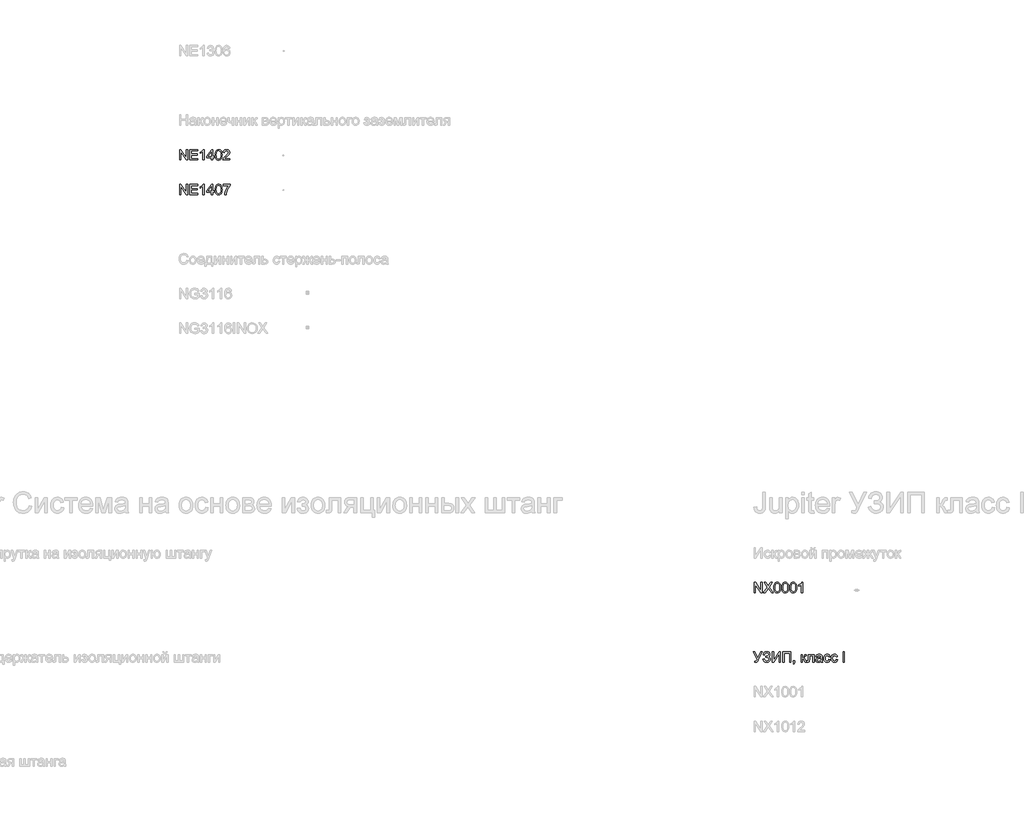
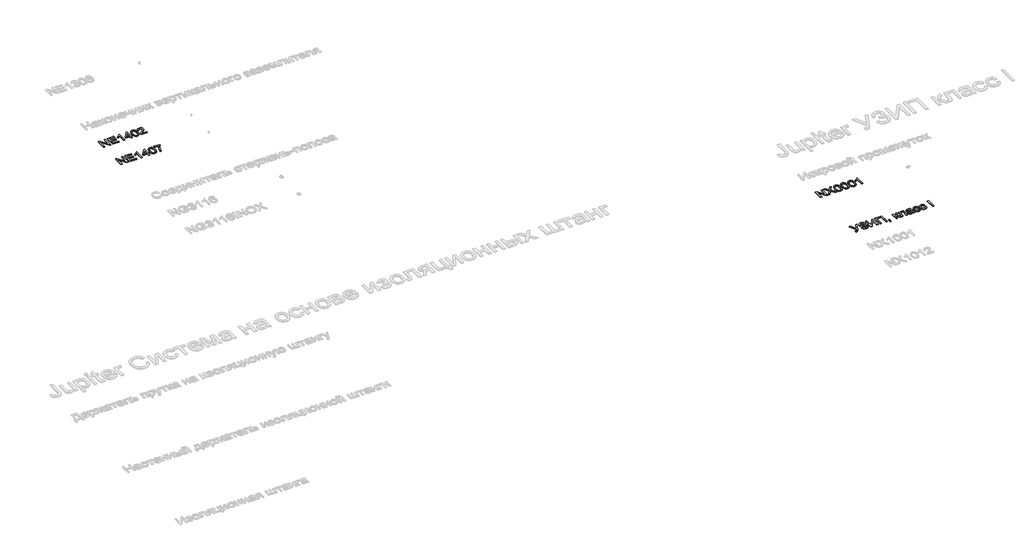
# One storey, part 45 of 124: 4 proxies.
"""IFC4 building model written with IfcOpenShell, lengths in millimetres."""

from ifc_helpers import new_model, si_unit, origin, origin_with_axes, place, context, project, spatial, polyline, outline, extrude, element, save

model = new_model("IFC4")

# Units and contexts
model_context = context("Model", 3, world=origin())
ifc_project = project(units=[si_unit("LENGTHUNIT", "METRE", prefix="MILLI")], contexts=[model_context])

# Site, building, storey
site = spatial("IfcSite", under=ifc_project)
building = spatial("IfcBuilding", under=site)
storey = spatial("IfcBuildingStorey", under=building, Name="Этаж 01", Elevation=0.0)

# Proxies
placement = place(None, origin())
element("IfcBuildingElementProxy", 1, Name="300", ObjectType="300", at=placement, inside=storey, context=model_context, shape_type="SweptSolid", body=[
    extrude(outline(polyline([(32939.8675381, -81074.498362), (32939.8675381, -80773.1294316), (32980.1874048, -80773.1294316), (33137.6408988, -81011.8848464), (33137.6408988, -80773.1294316), (33175.3120151, -80773.1294316), (33175.3120151, -81074.498362), (33134.9921484, -81074.498362), (32977.5386545, -80835.6693707), (32977.5386545, -81074.498362), (32939.8675381, -81074.498362)])), origin_with_axes(), (0.0, 0.0, 1.0), 20.0),
    extrude(outline(polyline([(33241.2364686, -81074.498362), (33241.2364686, -80773.1294316), (33457.8453874, -80773.1294316), (33457.8453874, -80810.8005479), (33278.9075849, -80810.8005479), (33278.9075849, -80900.2694491), (33448.4276083, -80900.2694491), (33448.4276083, -80937.9405654), (33278.9075849, -80937.9405654), (33278.9075849, -81036.8272457), (33462.5542769, -81036.8272457), (33462.5542769, -81074.498362), (33241.2364686, -81074.498362)])), origin_with_axes(), (0.0, 0.0, 1.0), 20.0),
    extrude(outline(polyline([(33646.2009689, -81074.498362), (33608.5298526, -81074.498362), (33608.5298526, -80839.6424963), (33572.8452991, -80865.0631421), (33533.18762, -80884.0826413), (33533.18762, -80848.4716642), (33562.7745294, -80832.3768269), (33588.4067074, -80813.228569), (33608.612626, -80792.8663006), (33621.9207572, -80773.1294316), (33646.2009689, -80773.1294316), (33646.2009689, -81074.498362)])), origin_with_axes(), (0.0, 0.0, 1.0), 20.0),
    extrude(outline(polyline([(33858.1009981, -81074.498362), (33858.1009981, -81003.8650189), (33721.5432015, -81003.8650189), (33721.5432015, -80966.1939026), (33867.5187772, -80777.8383211), (33895.7721144, -80777.8383211), (33895.7721144, -80966.1939026), (33933.4432307, -80966.1939026), (33933.4432307, -81003.8650189), (33895.7721144, -81003.8650189), (33895.7721144, -81074.498362), (33858.1009981, -81074.498362)]), holes=[polyline([(33858.1009981, -80966.1939026), (33858.1009981, -80849.7960393), (33767.8963329, -80966.1939026), (33858.1009981, -80966.1939026)])]), origin_with_axes(), (0.0, 0.0, 1.0), 20.0),
    extrude(outline(polyline([(33966.4054575, -80926.2419179), (33969.1737695, -80878.0033913), (33977.4787055, -80839.5321317), (33991.2374922, -80810.2395278), (34010.3673559, -80789.5369685), (34035.0062525, -80777.2313158), (34065.2921378, -80773.1294316), (34088.5054917, -80775.5574527), (34109.2908244, -80782.8415162), (34126.6732487, -80794.6965135), (34139.6778772, -80810.8373361), (34149.5003265, -80831.1260281), (34157.336213, -80855.4246339), (34162.4681668, -80886.2807362), (34164.1788181, -80926.2419179), (34161.4380972, -80974.2045331), (34153.2159346, -81012.5838222), (34139.5399215, -81041.9040172), (34120.4376489, -81062.68935), (34095.7435699, -81075.0777761), (34065.2921378, -81079.2072515), (34044.5435933, -81077.4138268), (34026.1494935, -81072.0335526), (34010.1098385, -81063.066429), (33996.4246283, -81050.5124559), (33983.2912411, -81027.8187353), (33973.9102502, -80999.5424055), (33968.2816557, -80965.6834664), (33966.4054575, -80926.2419179)]), holes=[polyline([(34004.0765738, -80926.1683415), (34008.4911577, -80985.4249339), (34014.0093877, -81005.6929326), (34021.7349096, -81019.7207329), (34041.4533845, -81036.0822847), (34065.2921378, -81041.5361352), (34089.1308911, -81036.0638906), (34108.849366, -81019.6471565), (34116.5748879, -81005.5963636), (34122.0931178, -80985.3329634), (34126.5077018, -80926.1683415), (34122.2402706, -80868.2453214), (34116.9059817, -80848.0440013), (34109.4379772, -80833.682808), (34089.7562905, -80816.5211129), (34064.8506794, -80810.8005479), (34041.2694435, -80815.8405312), (34022.3235208, -80830.9604812), (34014.3404815, -80846.595466), (34008.6383105, -80867.6751043), (34004.0765738, -80926.1683415)])]), origin_with_axes(), (0.0, 0.0, 1.0), 20.0),
    extrude(outline(polyline([(34390.2055159, -81036.8272457), (34390.2055159, -81074.498362), (34192.4321553, -81074.498362), (34196.4788573, -81048.5258931), (34205.7678777, -81028.2280041), (34219.3611174, -81008.5371203), (34239.02441, -80987.9265315), (34266.5235892, -80964.8695274), (34307.1745496, -80928.7619096), (34331.5651259, -80902.1088591), (34343.760414, -80880.4773977), (34347.8255101, -80859.4345476), (34343.9903403, -80840.5713983), (34332.4848309, -80824.8904283), (34314.798904, -80814.323018), (34292.4224816, -80810.8005479), (34268.9240192, -80814.2402445), (34250.6678752, -80824.5593345), (34238.8864543, -80840.9484774), (34234.8121612, -80862.5983328), (34197.1410449, -80857.8894432), (34206.2737154, -80821.4507316), (34214.820074, -80806.9147943), (34226.0197815, -80794.8344693), (34239.6153205, -80785.3385153), (34255.3491736, -80778.555691), (34293.231822, -80773.1294316), (34313.4216458, -80774.6377477), (34331.390382, -80779.1626963), (34347.1380306, -80786.7042772), (34360.6645917, -80797.2624904), (34371.5286069, -80810.0555868), (34379.2886177, -80824.3018171), (34383.9446242, -80840.0011812), (34385.4966264, -80857.1536793), (34383.8227633, -80875.1707), (34378.8011741, -80892.875021), (34369.8892328, -80910.8828446), (34356.5443134, -80929.8103733), (34335.271537, -80952.4075249), (34302.5760247, -80981.4242172), (34259.2395257, -81017.6605937), (34242.2433775, -81036.8272457), (34390.2055159, -81036.8272457)])), origin_with_axes(), (0.0, 0.0, 1.0), 20.0),
])
element("IfcBuildingElementProxy", 2, Name="300", ObjectType="300", at=placement, inside=storey, context=model_context, shape_type="SweptSolid", body=[
    extrude(outline(polyline([(32939.8675381, -82074.498362), (32939.8675381, -81773.1294316), (32980.1874048, -81773.1294316), (33137.6408988, -82011.8848464), (33137.6408988, -81773.1294316), (33175.3120151, -81773.1294316), (33175.3120151, -82074.498362), (33134.9921484, -82074.498362), (32977.5386545, -81835.6693707), (32977.5386545, -82074.498362), (32939.8675381, -82074.498362)])), origin_with_axes(), (0.0, 0.0, 1.0), 20.0),
    extrude(outline(polyline([(33241.2364686, -82074.498362), (33241.2364686, -81773.1294316), (33457.8453874, -81773.1294316), (33457.8453874, -81810.8005479), (33278.9075849, -81810.8005479), (33278.9075849, -81900.2694491), (33448.4276083, -81900.2694491), (33448.4276083, -81937.9405654), (33278.9075849, -81937.9405654), (33278.9075849, -82036.8272457), (33462.5542769, -82036.8272457), (33462.5542769, -82074.498362), (33241.2364686, -82074.498362)])), origin_with_axes(), (0.0, 0.0, 1.0), 20.0),
    extrude(outline(polyline([(33646.2009689, -82074.498362), (33608.5298526, -82074.498362), (33608.5298526, -81839.6424963), (33572.8452991, -81865.0631421), (33533.18762, -81884.0826413), (33533.18762, -81848.4716642), (33562.7745294, -81832.3768269), (33588.4067074, -81813.228569), (33608.612626, -81792.8663006), (33621.9207572, -81773.1294316), (33646.2009689, -81773.1294316), (33646.2009689, -82074.498362)])), origin_with_axes(), (0.0, 0.0, 1.0), 20.0),
    extrude(outline(polyline([(33858.1009981, -82074.498362), (33858.1009981, -82003.8650189), (33721.5432015, -82003.8650189), (33721.5432015, -81966.1939026), (33867.5187772, -81777.8383211), (33895.7721144, -81777.8383211), (33895.7721144, -81966.1939026), (33933.4432307, -81966.1939026), (33933.4432307, -82003.8650189), (33895.7721144, -82003.8650189), (33895.7721144, -82074.498362), (33858.1009981, -82074.498362)]), holes=[polyline([(33858.1009981, -81966.1939026), (33858.1009981, -81849.7960393), (33767.8963329, -81966.1939026), (33858.1009981, -81966.1939026)])]), origin_with_axes(), (0.0, 0.0, 1.0), 20.0),
    extrude(outline(polyline([(33966.4054575, -81926.2419179), (33969.1737695, -81878.0033913), (33977.4787055, -81839.5321317), (33991.2374922, -81810.2395278), (34010.3673559, -81789.5369685), (34035.0062525, -81777.2313158), (34065.2921378, -81773.1294316), (34088.5054917, -81775.5574527), (34109.2908244, -81782.8415162), (34126.6732487, -81794.6965135), (34139.6778772, -81810.8373361), (34149.5003265, -81831.1260281), (34157.336213, -81855.4246339), (34162.4681668, -81886.2807362), (34164.1788181, -81926.2419179), (34161.4380972, -81974.2045331), (34153.2159346, -82012.5838222), (34139.5399215, -82041.9040172), (34120.4376489, -82062.68935), (34095.7435699, -82075.0777761), (34065.2921378, -82079.2072515), (34044.5435933, -82077.4138268), (34026.1494935, -82072.0335526), (34010.1098385, -82063.066429), (33996.4246283, -82050.5124559), (33983.2912411, -82027.8187353), (33973.9102502, -81999.5424055), (33968.2816557, -81965.6834664), (33966.4054575, -81926.2419179)]), holes=[polyline([(34004.0765738, -81926.1683415), (34008.4911577, -81985.4249339), (34014.0093877, -82005.6929326), (34021.7349096, -82019.7207329), (34041.4533845, -82036.0822847), (34065.2921378, -82041.5361352), (34089.1308911, -82036.0638906), (34108.849366, -82019.6471565), (34116.5748879, -82005.5963636), (34122.0931178, -81985.3329634), (34126.5077018, -81926.1683415), (34122.2402706, -81868.2453214), (34116.9059817, -81848.0440013), (34109.4379772, -81833.682808), (34089.7562905, -81816.5211129), (34064.8506794, -81810.8005479), (34041.2694435, -81815.8405312), (34022.3235208, -81830.9604812), (34014.3404815, -81846.595466), (34008.6383105, -81867.6751043), (34004.0765738, -81926.1683415)])]), origin_with_axes(), (0.0, 0.0, 1.0), 20.0),
    extrude(outline(polyline([(34197.1410449, -81815.5094374), (34197.1410449, -81777.8383211), (34394.9144055, -81777.8383211), (34394.9144055, -81808.2989503), (34366.7254476, -81843.9743068), (34338.8124012, -81889.3433538), (34314.1918987, -81940.267419), (34295.8805724, -81992.6078299), (34286.9042517, -82031.7688683), (34281.9010566, -82074.498362), (34244.2299402, -82074.498362), (34248.3042333, -82035.6684174), (34259.2027375, -81989.5176211), (34276.631147, -81940.5985128), (34300.2951563, -81893.4636322), (34327.9230942, -81850.8537001), (34357.2432892, -81815.5094374), (34197.1410449, -81815.5094374)])), origin_with_axes(), (0.0, 0.0, 1.0), 20.0),
])
element("IfcBuildingElementProxy", 3, Name="300", ObjectType="300", at=placement, inside=storey, context=model_context, shape_type="SweptSolid", body=[
    extrude(outline(polyline([(49499.8220677, -93548.8731539), (49499.8220677, -93247.5042234), (49540.1419344, -93247.5042234), (49697.5954283, -93486.2596383), (49697.5954283, -93247.5042234), (49735.2665446, -93247.5042234), (49735.2665446, -93548.8731539), (49694.9466779, -93548.8731539), (49537.493184, -93310.0441626), (49537.493184, -93548.8731539), (49499.8220677, -93548.8731539)])), origin_with_axes(), (0.0, 0.0, 1.0), 20.0),
    extrude(outline(polyline([(49768.2287714, -93548.8731539), (49884.4059055, -93384.6506312), (49787.0643295, -93247.5042234), (49832.2402385, -93247.5042234), (49887.0546558, -93324.685866), (49905.522332, -93354.7786132), (49927.1537933, -93324.1708312), (49981.3795994, -93247.5042234), (50027.217696, -93247.5042234), (49929.8761201, -93385.0920896), (50046.0532541, -93548.8731539), (50000.8773451, -93548.8731539), (49923.4749733, -93439.6857777), (49907.361742, -93417.0242468), (49889.6298298, -93441.8930697), (49814.066868, -93548.8731539), (49768.2287714, -93548.8731539)])), origin_with_axes(), (0.0, 0.0, 1.0), 20.0),
    extrude(outline(polyline([(50069.5977018, -93400.6167098), (50072.3660138, -93352.3781832), (50080.6709499, -93313.9069236), (50094.4297365, -93284.6143197), (50113.5596002, -93263.9117604), (50138.1984969, -93251.6061077), (50168.4843821, -93247.5042234), (50191.697736, -93249.9322446), (50212.4830688, -93257.2163081), (50229.865493, -93269.0713054), (50242.8701216, -93285.2121279), (50252.6925708, -93305.50082), (50260.5284573, -93329.7994258), (50265.6604112, -93360.6555281), (50267.3710624, -93400.6167098), (50264.6303416, -93448.579325), (50256.408179, -93486.9586141), (50242.7321658, -93516.2788091), (50223.6298932, -93537.0641418), (50198.9358143, -93549.452568), (50168.4843821, -93553.5820434), (50147.7358376, -93551.7886187), (50129.3417378, -93546.4083445), (50113.3020829, -93537.4412209), (50099.6168726, -93524.8872478), (50086.4834854, -93502.1935272), (50077.1024945, -93473.9171974), (50071.4739, -93440.0582582), (50069.5977018, -93400.6167098)]), holes=[polyline([(50107.2688181, -93400.5431334), (50111.6834021, -93459.7997258), (50117.201632, -93480.0677245), (50124.9271539, -93494.0955248), (50144.6456288, -93510.4570765), (50168.4843821, -93515.9109271), (50192.3231354, -93510.4386824), (50212.0416104, -93494.0219484), (50219.7671323, -93479.9711555), (50225.2853622, -93459.7077553), (50229.6999461, -93400.5431334), (50225.432515, -93342.6201133), (50220.0982261, -93322.4187932), (50212.6302215, -93308.0575998), (50192.9485348, -93290.8959048), (50168.0429237, -93285.1753397), (50144.4616878, -93290.2153231), (50125.5157651, -93305.3352731), (50117.5327258, -93320.9702579), (50111.8305549, -93342.0498962), (50107.2688181, -93400.5431334)])]), origin_with_axes(), (0.0, 0.0, 1.0), 20.0),
    extrude(outline(polyline([(50300.3332892, -93400.6167098), (50303.1016012, -93352.3781832), (50311.4065373, -93313.9069236), (50325.1653239, -93284.6143197), (50344.2951876, -93263.9117604), (50368.9340842, -93251.6061077), (50399.2199695, -93247.5042234), (50422.4333234, -93249.9322446), (50443.2186561, -93257.2163081), (50460.6010804, -93269.0713054), (50473.6057089, -93285.2121279), (50483.4281582, -93305.50082), (50491.2640447, -93329.7994258), (50496.3959985, -93360.6555281), (50498.1066498, -93400.6167098), (50495.3659289, -93448.579325), (50487.1437663, -93486.9586141), (50473.4677532, -93516.2788091), (50454.3654806, -93537.0641418), (50429.6714017, -93549.452568), (50399.2199695, -93553.5820434), (50378.471425, -93551.7886187), (50360.0773252, -93546.4083445), (50344.0376702, -93537.4412209), (50330.35246, -93524.8872478), (50317.2190728, -93502.1935272), (50307.8380819, -93473.9171974), (50302.2094874, -93440.0582582), (50300.3332892, -93400.6167098)]), holes=[polyline([(50338.0044055, -93400.5431334), (50342.4189894, -93459.7997258), (50347.9372194, -93480.0677245), (50355.6627413, -93494.0955248), (50375.3812162, -93510.4570765), (50399.2199695, -93515.9109271), (50423.0587228, -93510.4386824), (50442.7771977, -93494.0219484), (50450.5027196, -93479.9711555), (50456.0209496, -93459.7077553), (50460.4355335, -93400.5431334), (50456.1681024, -93342.6201133), (50450.8338134, -93322.4187932), (50443.3658089, -93308.0575998), (50423.6841222, -93290.8959048), (50398.7785111, -93285.1753397), (50375.1972752, -93290.2153231), (50356.2513525, -93305.3352731), (50348.2683132, -93320.9702579), (50342.5661422, -93342.0498962), (50338.0044055, -93400.5431334)])]), origin_with_axes(), (0.0, 0.0, 1.0), 20.0),
    extrude(outline(polyline([(50531.0688766, -93400.6167098), (50533.8371886, -93352.3781832), (50542.1421246, -93313.9069236), (50555.9009112, -93284.6143197), (50575.030775, -93263.9117604), (50599.6696716, -93251.6061077), (50629.9555569, -93247.5042234), (50653.1689108, -93249.9322446), (50673.9542435, -93257.2163081), (50691.3366678, -93269.0713054), (50704.3412963, -93285.2121279), (50714.1637456, -93305.50082), (50721.9996321, -93329.7994258), (50727.1315859, -93360.6555281), (50728.8422372, -93400.6167098), (50726.1015163, -93448.579325), (50717.8793537, -93486.9586141), (50704.2033406, -93516.2788091), (50685.101068, -93537.0641418), (50660.406989, -93549.452568), (50629.9555569, -93553.5820434), (50609.2070123, -93551.7886187), (50590.8129126, -93546.4083445), (50574.7732576, -93537.4412209), (50561.0880474, -93524.8872478), (50547.9546602, -93502.1935272), (50538.5736693, -93473.9171974), (50532.9450747, -93440.0582582), (50531.0688766, -93400.6167098)]), holes=[polyline([(50568.7399929, -93400.5431334), (50573.1545768, -93459.7997258), (50578.6728067, -93480.0677245), (50586.3983286, -93494.0955248), (50606.1168036, -93510.4570765), (50629.9555569, -93515.9109271), (50653.7943102, -93510.4386824), (50673.5127851, -93494.0219484), (50681.238307, -93479.9711555), (50686.7565369, -93459.7077553), (50691.1711209, -93400.5431334), (50686.9036897, -93342.6201133), (50681.5694008, -93322.4187932), (50674.1013963, -93308.0575998), (50654.4197096, -93290.8959048), (50629.5140985, -93285.1753397), (50605.9328626, -93290.2153231), (50586.9869398, -93305.3352731), (50579.0039005, -93320.9702579), (50573.3017296, -93342.0498962), (50568.7399929, -93400.5431334)])]), origin_with_axes(), (0.0, 0.0, 1.0), 20.0),
    extrude(outline(polyline([(50903.0711501, -93548.8731539), (50865.4000338, -93548.8731539), (50865.4000338, -93314.0172882), (50829.7154803, -93339.437934), (50790.0578012, -93358.4574332), (50790.0578012, -93322.846456), (50819.6447106, -93306.7516188), (50845.2768887, -93287.6033609), (50865.4828072, -93267.2410925), (50878.7909384, -93247.5042234), (50903.0711501, -93247.5042234), (50903.0711501, -93548.8731539)])), origin_with_axes(), (0.0, 0.0, 1.0), 20.0),
])
element("IfcBuildingElementProxy", 4, Name="300", ObjectType="300", at=placement, inside=storey, context=model_context, shape_type="SweptSolid", body=[
    extrude(outline(polyline([(49478.6320648, -95247.5042234), (49520.349883, -95247.5042234), (49610.4809718, -95426.0005675), (49691.5621636, -95247.5042234), (49732.9120998, -95247.5042234), (49618.5007993, -95482.2865128), (49601.2287397, -95518.7436185), (49587.3779825, -95539.9704096), (49572.6075204, -95550.179135), (49552.5763458, -95553.5820434), (49518.6576258, -95548.8731539), (49518.6576258, -95515.9109271), (49548.3089147, -95515.9109271), (49560.173109, -95513.8139997), (49570.308258, -95507.5232176), (49580.0387367, -95493.7828251), (49590.6889205, -95469.3370665), (49478.6320648, -95247.5042234)])), origin_with_axes(), (0.0, 0.0, 1.0), 20.0),
    extrude(outline(polyline([(49754.1021028, -95464.1131422), (49791.7732191, -95454.6953631), (49799.7286672, -95475.0852227), (49814.9129966, -95495.4934764), (49836.7743841, -95510.8065644), (49864.7610069, -95515.9109271), (49893.1155117, -95512.0757573), (49914.7561701, -95500.5702479), (49928.4689714, -95483.6384791), (49933.0399052, -95463.524531), (49928.0459071, -95442.4540897), (49913.0639129, -95426.1845085), (49889.4734799, -95415.7826451), (49858.6541658, -95412.3153573), (49838.8621144, -95412.3153573), (49838.8621144, -95374.644241), (49881.4996377, -95371.5908204), (49895.3963801, -95366.164561), (49907.5824711, -95355.9926238), (49916.0805452, -95342.5925221), (49918.9132366, -95327.4817692), (49915.1424461, -95309.74066), (49903.8300748, -95294.4827542), (49886.0797685, -95283.9705262), (49862.9951733, -95280.4664502), (49842.1270672, -95283.1611858), (49824.5515048, -95291.2453927), (49811.0870238, -95303.7809716), (49802.5521615, -95319.8298237), (49796.4821086, -95346.3909037), (49758.8109923, -95336.9731247), (49770.5142383, -95295.7703412), (49779.9285685, -95279.5835334), (49791.7180368, -95266.3397816), (49805.8826432, -95256.0390857), (49822.4223878, -95248.6814458), (49841.3372705, -95244.2668619), (49862.6272913, -95242.7953339), (49883.1390118, -95244.3243434), (49901.4112507, -95248.9113721), (49917.4440079, -95256.5564198), (49931.2372834, -95267.2594866), (49942.3266263, -95280.008897), (49950.2475855, -95293.7929755), (49955.0001611, -95308.6117221), (49956.5843529, -95324.4651368), (49954.1195435, -95344.2893778), (49946.7251154, -95361.749977), (49934.4010686, -95376.8469344), (49917.147403, -95389.58025), (49938.0982826, -95399.2279553), (49955.3335541, -95415.5159306), (49966.8666547, -95437.0462244), (49970.7110215, -95462.420885), (49968.867013, -95481.0518088), (49963.3349875, -95498.0962415), (49954.114945, -95513.5541831), (49941.2068855, -95527.4256336), (49925.2546025, -95538.8690629), (49906.9018895, -95547.042941), (49886.1487464, -95551.9472678), (49862.9951733, -95553.5820434), (49824.7906281, -95547.9902371), (49808.4336749, -95541.0004792), (49793.9069346, -95531.2148181), (49781.2104073, -95518.6332539), (49770.3440928, -95503.2557865), (49754.1021028, -95464.1131422)])), origin_with_axes(), (0.0, 0.0, 1.0), 20.0),
    extrude(outline(polyline([(50022.5088064, -95247.5042234), (50060.1799227, -95247.5042234), (50060.1799227, -95486.1860619), (50217.9277223, -95247.5042234), (50257.9532834, -95247.5042234), (50257.9532834, -95548.8731539), (50220.282167, -95548.8731539), (50220.282167, -95310.853503), (50062.9022495, -95548.8731539), (50022.5088064, -95548.8731539), (50022.5088064, -95247.5042234)])), origin_with_axes(), (0.0, 0.0, 1.0), 20.0),
    extrude(outline(polyline([(50323.8777369, -95247.5042234), (50559.3222138, -95247.5042234), (50559.3222138, -95548.8731539), (50521.6510975, -95548.8731539), (50521.6510975, -95285.1753397), (50361.5488532, -95285.1753397), (50361.5488532, -95548.8731539), (50323.8777369, -95548.8731539), (50323.8777369, -95247.5042234)])), origin_with_axes(), (0.0, 0.0, 1.0), 20.0),
    extrude(outline(polyline([(50629.9555569, -95548.8731539), (50629.9555569, -95511.2020376), (50667.6266732, -95511.2020376), (50667.6266732, -95548.8731539), (50665.934416, -95570.4218418), (50660.8576445, -95587.3903988), (50652.102053, -95600.4042244), (50639.373336, -95610.0887179), (50629.9555569, -95595.9620493), (50638.1225372, -95589.1378383), (50643.7879199, -95579.7016651), (50648.7175386, -95548.8731539), (50629.9555569, -95548.8731539)])), origin_with_axes(), (0.0, 0.0, 1.0), 20.0),
    extrude(outline(polyline([(50855.9822547, -95327.5553456), (50893.653371, -95327.5553456), (50893.653371, -95421.7331364), (50908.9756561, -95420.0408792), (50918.8900759, -95414.9641076), (50927.6640615, -95401.7203558), (50939.565044, -95375.5271578), (50956.7451332, -95341.4980732), (50971.9018714, -95330.4248251), (50999.4562328, -95327.5553456), (51006.6667199, -95327.5553456), (51006.6667199, -95365.4471911), (50996.5131769, -95365.2264619), (50978.1190771, -95369.1995874), (50965.1696309, -95393.9948339), (50949.9761045, -95420.8134314), (50928.675737, -95433.9468186), (50940.6135077, -95439.2489178), (50952.4409138, -95448.6069161), (50975.7646323, -95479.4906096), (51016.084499, -95548.8731539), (50973.2630348, -95548.8731539), (50933.7525085, -95480.9621376), (50913.8868808, -95452.2305538), (50904.5978604, -95447.0158265), (50893.653371, -95445.277584), (50893.653371, -95548.8731539), (50855.9822547, -95548.8731539), (50855.9822547, -95327.5553456)])), origin_with_axes(), (0.0, 0.0, 1.0), 20.0),
    extrude(outline(polyline([(51058.4645049, -95327.5553456), (51227.9845282, -95327.5553456), (51227.9845282, -95548.6524247), (51190.3134119, -95548.6524247), (51190.3134119, -95365.2264619), (51096.1356212, -95365.2264619), (51096.1356212, -95470.8085945), (51093.5972354, -95519.5161707), (51088.8423606, -95530.5434335), (51079.6545078, -95540.0807742), (51065.7117802, -95546.675059), (51046.692281, -95548.8731539), (51016.084499, -95546.9601675), (51016.084499, -95511.2020376), (51032.9334944, -95511.2020376), (51049.9664308, -95508.884381), (51056.7722477, -95501.5267411), (51058.4645049, -95468.6748789), (51058.4645049, -95327.5553456)])), origin_with_axes(), (0.0, 0.0, 1.0), 20.0),
    extrude(outline(polyline([(51425.7578888, -95520.6198167), (51407.7592622, -95536.0524664), (51389.2272067, -95546.1508271), (51369.738658, -95551.7242393), (51348.8705519, -95553.5820434), (51317.3890501, -95549.1122772), (51294.1664992, -95535.7029785), (51279.8466925, -95515.34071), (51275.0734236, -95490.0120347), (51276.8760454, -95474.395444), (51282.2839107, -95460.213593), (51290.625635, -95448.0734872), (51301.2298335, -95438.5821317), (51327.6069725, -95426.2212967), (51360.2013173, -95420.555914), (51398.7185622, -95414.5962256), (51425.5371596, -95407.6064677), (51425.7578888, -95399.2187582), (51423.1643208, -95382.4065511), (51415.3836166, -95371.4068794), (51397.9827982, -95363.2398991), (51373.7393747, -95360.5175724), (51351.298573, -95362.3293912), (51335.6268, -95367.7648477), (51324.9398281, -95377.8172232), (51317.4534295, -95393.4797991), (51279.7823132, -95388.7709096), (51286.3214156, -95368.1695179), (51296.0794855, -95351.9827101), (51309.9670309, -95339.6034809), (51328.8945595, -95330.4248251), (51352.0435341, -95324.7410483), (51378.5954171, -95322.846456), (51404.0620482, -95324.5203191), (51424.2495727, -95329.5419084), (51439.4706902, -95337.0926863), (51450.0381005, -95346.3541155), (51457.0462525, -95357.8044426), (51461.5895952, -95371.9219142), (51463.4290051, -95404.884141), (51463.4290051, -95451.7523072), (51465.3419915, -95517.1985141), (51472.8467842, -95548.8731539), (51435.1756679, -95548.8731539), (51425.7578888, -95520.6198167)]), holes=[polyline([(51425.7578888, -95445.277584), (51364.9837832, -95456.8290787), (51332.5733795, -95462.9359198), (51317.8948879, -95472.8687337), (51312.7445399, -95487.3632843), (51315.5496401, -95498.565291), (51323.9649408, -95507.7439468), (51337.8065008, -95513.869182), (51356.8903793, -95515.9109271), (51377.1238891, -95513.6576499), (51395.002954, -95506.8978182), (51409.4975047, -95496.9374132), (51419.5774713, -95485.0824159), (51424.0472376, -95472.8687337), (51425.5371596, -95455.9461619), (51425.7578888, -95445.277584)])]), origin_with_axes(), (0.0, 0.0, 1.0), 20.0),
    extrude(outline(polyline([(51656.4934762, -95468.8220317), (51694.1645925, -95473.5309213), (51683.6615616, -95507.035774), (51663.9246925, -95532.3552523), (51636.8117895, -95548.2753456), (51604.1806565, -95553.5820434), (51583.0527337, -95551.7311371), (51564.1091102, -95546.1784183), (51547.349786, -95536.9238868), (51532.7747612, -95523.9675428), (51520.9772455, -95507.553108), (51512.5504486, -95487.9243043), (51507.4943704, -95465.0811317), (51505.809011, -95439.0235901), (51508.6876876, -95405.5003433), (51517.3237174, -95376.4468627), (51531.8550563, -95352.9851885), (51552.4196598, -95336.2373607), (51577.0217682, -95326.1941822), (51603.6656217, -95322.846456), (51635.4966113, -95327.444981), (51660.9448484, -95341.2405558), (51679.2009924, -95363.4974165), (51689.455703, -95393.4797991), (51651.7845867, -95398.1886887), (51644.9511786, -95381.7535605), (51634.3101919, -95369.9721396), (51620.4502377, -95362.8812142), (51603.9599273, -95360.5175724), (51579.6153363, -95365.1712796), (51560.2923345, -95379.1324013), (51547.6831791, -95403.1550956), (51543.4801273, -95437.9935205), (51547.5912086, -95473.300995), (51559.9244525, -95497.4064628), (51578.8979664, -95511.284811), (51602.9298577, -95515.9109271), (51622.4368005, -95513.0230535), (51638.4304703, -95504.3594325), (51650.0647384, -95489.699335), (51656.4934762, -95468.8220317)])), origin_with_axes(), (0.0, 0.0, 1.0), 20.0),
    extrude(outline(polyline([(51868.3935054, -95468.8220317), (51906.0646217, -95473.5309213), (51895.5615908, -95507.035774), (51875.8247217, -95532.3552523), (51848.7118187, -95548.2753456), (51816.0806857, -95553.5820434), (51794.9527629, -95551.7311371), (51776.0091394, -95546.1784183), (51759.2498153, -95536.9238868), (51744.6747905, -95523.9675428), (51732.8772747, -95507.553108), (51724.4504778, -95487.9243043), (51719.3943996, -95465.0811317), (51717.7090402, -95439.0235901), (51720.5877168, -95405.5003433), (51729.2237467, -95376.4468627), (51743.7550855, -95352.9851885), (51764.319689, -95336.2373607), (51788.9217974, -95326.1941822), (51815.5656509, -95322.846456), (51847.3966406, -95327.444981), (51872.8448776, -95341.2405558), (51891.1010216, -95363.4974165), (51901.3557322, -95393.4797991), (51863.6846159, -95398.1886887), (51856.8512078, -95381.7535605), (51846.2102211, -95369.9721396), (51832.350267, -95362.8812142), (51815.8599565, -95360.5175724), (51791.5153655, -95365.1712796), (51772.1923637, -95379.1324013), (51759.5832083, -95403.1550956), (51755.3801565, -95437.9935205), (51759.4912378, -95473.300995), (51771.8244817, -95497.4064628), (51790.7979956, -95511.284811), (51814.8298869, -95515.9109271), (51834.3368297, -95513.0230535), (51850.3304995, -95504.3594325), (51861.9647676, -95489.699335), (51868.3935054, -95468.8220317)])), origin_with_axes(), (0.0, 0.0, 1.0), 20.0),
    extrude(outline(polyline([(52066.166866, -95548.8731539), (52066.166866, -95247.5042234), (52103.8379824, -95247.5042234), (52103.8379824, -95548.8731539), (52066.166866, -95548.8731539)])), origin_with_axes(), (0.0, 0.0, 1.0), 20.0),
])

save(model, "model.ifc")
